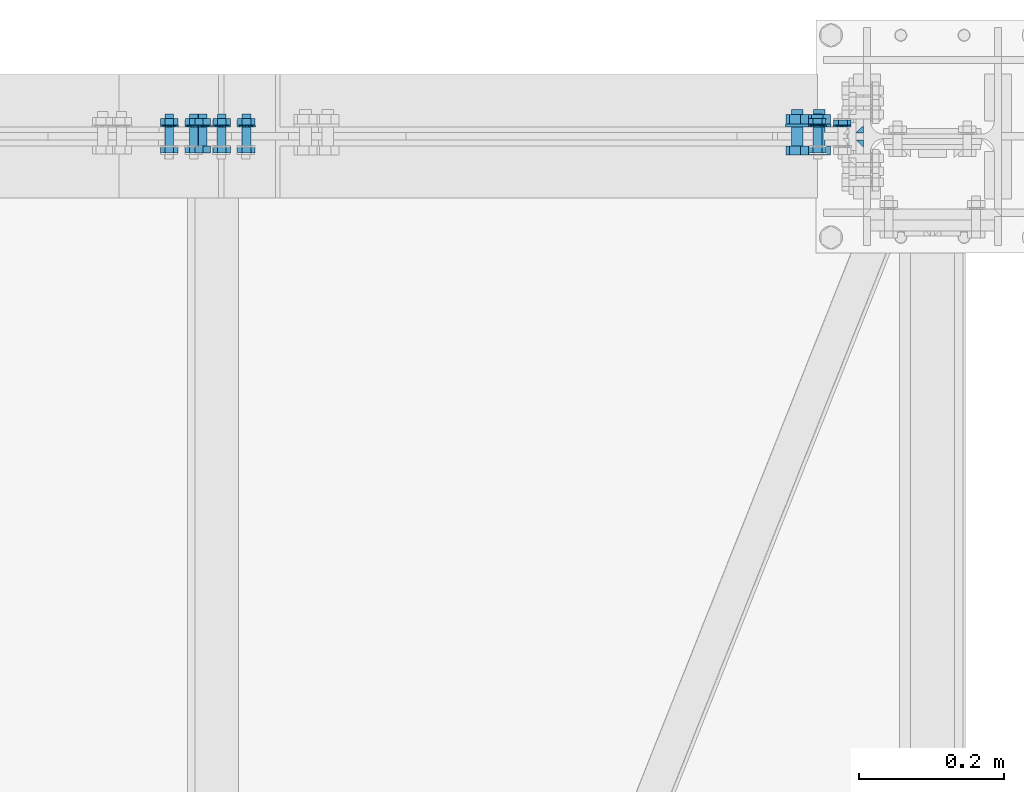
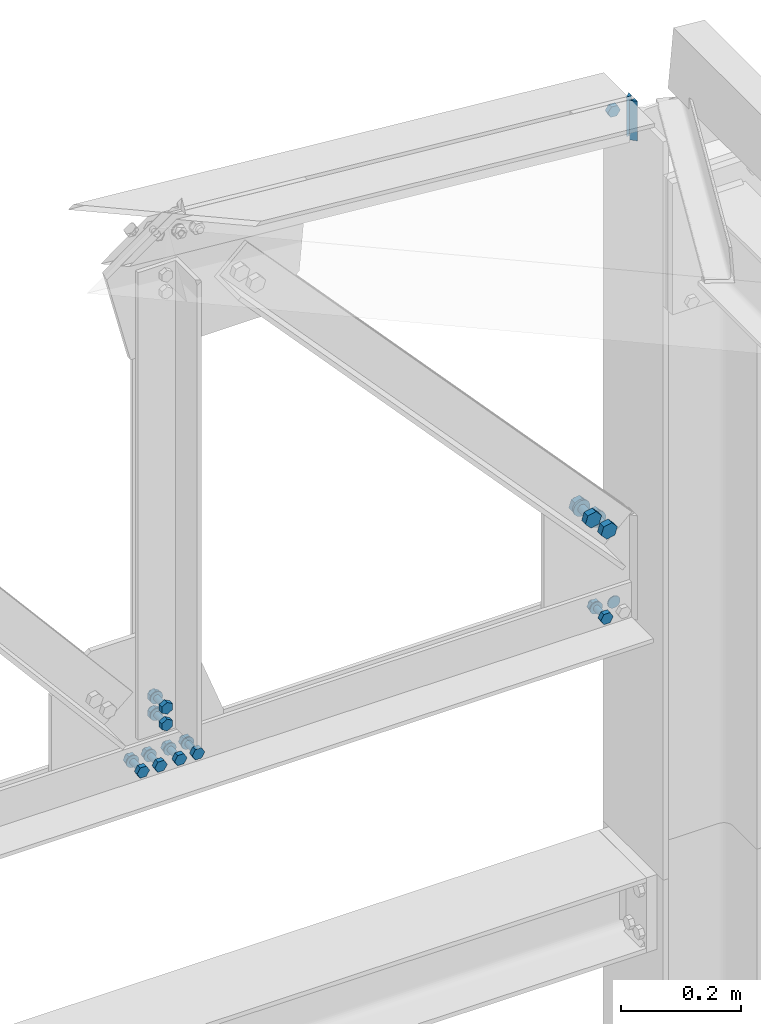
# One storey, part 224 of 251: 38 mechanical fasteners, 2 fasteners.
"""IFC4 building model written with IfcOpenShell, lengths in metres."""

from ifc_helpers import new_model, si_unit, frame, origin_with_axes, place, context, project, spatial, polyline, outline, extrude, type_object, element, save


model = new_model("IFC4")

# Units and contexts
model_context = context("Model", 3, precision=1e-05, world=origin_with_axes())
ifc_project = project(units=[si_unit("LENGTHUNIT", "METRE"), si_unit("AREAUNIT", "SQUARE_METRE"), si_unit("VOLUMEUNIT", "CUBIC_METRE"), si_unit("MASSUNIT", "GRAM", prefix="KILO"), si_unit("TIMEUNIT", "SECOND"), si_unit("PLANEANGLEUNIT", "RADIAN"), si_unit("SOLIDANGLEUNIT", "STERADIAN"), si_unit("THERMODYNAMICTEMPERATUREUNIT", "DEGREE_CELSIUS")], contexts=[model_context])

# Site, building, storey
placement_1 = place(None, origin_with_axes())
site = spatial("IfcSite", under=ifc_project, at=placement_1, Name="Italia", CompositionType="ELEMENT")
building = spatial("IfcBuilding", under=site, at=placement_1, Name="Deposito", CompositionType="ELEMENT")
storey = spatial("IfcBuildingStorey", under=building, at=placement_1, Name="Storey 0", CompositionType="ELEMENT", Elevation=0.0)

# Mechanical fasteners
mechanical_fastener_type_1 = type_object("IfcMechanicalFastenerType", Name="Reticolare 6", PredefinedType="BOLT")
placement_2 = place(placement_1, origin_with_axes())
mechanical_fastener_1_placement = place(placement_2, origin_with_axes())
element("IfcMechanicalFastener", 1, at=mechanical_fastener_1_placement, inside=storey, type_object=mechanical_fastener_type_1, Name="Reticolare 6", NominalDiameter=0.024, context=model_context, shape_type="SweptSolid", body=[
    extrude(outline(polyline([(0.0, 0.0), (-0.000408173, -0.00310564), (-0.00160599, -0.00600004), (-0.00351334, -0.00848532), (-0.00599861, -0.0103922), (-0.00889397, -0.011591), (-0.0119991, -0.0120001), (-0.0151043, -0.011591), (-0.0179996, -0.0103922), (-0.0204849, -0.00848532), (-0.0223923, -0.00600004), (-0.0235901, -0.00310564), (-0.0239983, 0.0), (-0.0235901, 0.00310564), (-0.0223923, 0.00600004), (-0.0204849, 0.00848532), (-0.0179996, 0.0103922), (-0.0151043, 0.011591), (-0.0119991, 0.0120001), (-0.00889397, 0.011591), (-0.00599861, 0.0103922), (-0.00351334, 0.00848532), (-0.00160599, 0.00600004), (-0.000408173, 0.00310564), (0.0, 0.0)])), frame((19.8879, 20.015, 5.007), z_axis=(0.0, -1.0, 0.0), x_axis=(1.0, 0.0, 0.0)), (0.0, 0.0, 1.0), 0.0019989),
])
mechanical_fastener_type_2 = type_object("IfcMechanicalFastenerType", Name="Reticolare 6", PredefinedType="BOLT")
mechanical_fastener_2_placement = place(placement_2, origin_with_axes())
element("IfcMechanicalFastener", 2, at=mechanical_fastener_2_placement, inside=storey, type_object=mechanical_fastener_type_2, Name="Reticolare 6", NominalDiameter=0.0119991, context=model_context, shape_type="SweptSolid", body=[
    extrude(outline(polyline([(0.0, 0.0), (-0.0119991, 0.0), (-0.0179996, 0.0103922), (-0.0119991, 0.0207844), (0.0, 0.0207844), (0.00600052, 0.0103922), (0.0, 0.0)])), frame((19.8479, 19.987, 4.99661), z_axis=(0.0, -1.0, 0.0), x_axis=(1.0, 0.0, 0.0)), (0.0, 0.0, 1.0), 0.00959969),
])
mechanical_fastener_type_3 = type_object("IfcMechanicalFastenerType", Name="Reticolare 6", PredefinedType="BOLT")
mechanical_fastener_3_placement = place(placement_2, origin_with_axes())
element("IfcMechanicalFastener", 3, at=mechanical_fastener_3_placement, inside=storey, type_object=mechanical_fastener_type_3, Name="Reticolare 6", NominalDiameter=0.012, context=model_context, shape_type="SweptSolid", body=[
    extrude(outline(polyline([(0.0, 0.0), (-0.000204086, -0.00155306), (-0.000804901, -0.00299978), (-0.00175858, -0.00424242), (-0.00300026, -0.00519609), (-0.00444794, -0.00579548), (-0.00600052, -0.00600004), (-0.0075531, -0.00579548), (-0.00900078, -0.00519609), (-0.0102425, -0.00424242), (-0.0111961, -0.00299978), (-0.011797, -0.00155306), (-0.012001, 0.0), (-0.011797, 0.00155306), (-0.0111961, 0.00299978), (-0.0102425, 0.00424242), (-0.00900078, 0.00519609), (-0.0075531, 0.00579548), (-0.00600052, 0.00600004), (-0.00444794, 0.00579548), (-0.00300026, 0.00519609), (-0.00175858, 0.00424242), (-0.000804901, 0.00299978), (-0.000204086, 0.00155306), (0.0, 0.0)])), frame((19.8479, 20.031, 5.007), z_axis=(0.0, -1.0, 0.0), x_axis=(1.0, 0.0, 0.0)), (0.0, 0.0, 1.0), 0.0440006),
])
mechanical_fastener_type_4 = type_object("IfcMechanicalFastenerType", Name="Reticolare 6", PredefinedType="BOLT")
mechanical_fastener_4_placement = place(placement_2, origin_with_axes())
element("IfcMechanicalFastener", 4, at=mechanical_fastener_4_placement, inside=storey, type_object=mechanical_fastener_type_4, Name="Reticolare 6", NominalDiameter=0.0119991, context=model_context, shape_type="SweptSolid", body=[
    extrude(outline(polyline([(0.0, 0.0), (-0.0119991, 0.0), (-0.0179996, 0.0103922), (-0.0119991, 0.0207844), (0.0, 0.0207844), (0.00600052, 0.0103922), (0.0, 0.0)])), frame((19.8479, 20.0246, 4.99661), z_axis=(0.0, -1.0, 0.0), x_axis=(1.0, 0.0, 0.0)), (0.0, 0.0, 1.0), 0.00959969),
])
mechanical_fastener_type_5 = type_object("IfcMechanicalFastenerType", Name="Reticolare 6", PredefinedType="BOLT")
mechanical_fastener_5_placement = place(placement_2, origin_with_axes())
element("IfcMechanicalFastener", 5, at=mechanical_fastener_5_placement, inside=storey, type_object=mechanical_fastener_type_5, Name="Reticolare 6", NominalDiameter=0.024, context=model_context, shape_type="SweptSolid", body=[
    extrude(outline(polyline([(0.0, 0.0), (-0.000408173, -0.00310564), (-0.00160599, -0.00600004), (-0.00351334, -0.00848532), (-0.00599861, -0.0103922), (-0.00889397, -0.011591), (-0.0119991, -0.0120001), (-0.0151043, -0.011591), (-0.0179996, -0.0103922), (-0.0204849, -0.00848532), (-0.0223923, -0.00600004), (-0.0235901, -0.00310564), (-0.0239983, 0.0), (-0.0235901, 0.00310564), (-0.0223923, 0.00600004), (-0.0204849, 0.00848532), (-0.0179996, 0.0103922), (-0.0151043, 0.011591), (-0.0119991, 0.0120001), (-0.00889397, 0.011591), (-0.00599861, 0.0103922), (-0.00351334, 0.00848532), (-0.00160599, 0.00600004), (-0.000408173, 0.00310564), (0.0, 0.0)])), frame((19.8539, 20.015, 5.007), z_axis=(0.0, -1.0, 0.0), x_axis=(1.0, 0.0, 0.0)), (0.0, 0.0, 1.0), 0.0019989),
])
mechanical_fastener_type_6 = type_object("IfcMechanicalFastenerType", Name="Reticolare 6", PredefinedType="BOLT")
mechanical_fastener_6_placement = place(placement_2, origin_with_axes())
element("IfcMechanicalFastener", 6, at=mechanical_fastener_6_placement, inside=storey, type_object=mechanical_fastener_type_6, Name="Reticolare 6", NominalDiameter=0.0159985, context=model_context, shape_type="SweptSolid", body=[
    extrude(outline(polyline([(0.0, 0.0), (-0.0108109, 0.0117965), (-0.00599861, 0.0270557), (0.00962257, 0.030519), (0.0204315, 0.0187225), (0.0156193, 0.00346279), (0.0, 0.0)])), frame((19.8397, 19.987, 5.17076), z_axis=(0.0, -1.0, 0.0), x_axis=(1.0, 0.0, 0.0)), (0.0, 0.0, 1.0), 0.0128002),
])
mechanical_fastener_type_7 = type_object("IfcMechanicalFastenerType", Name="Reticolare 6", PredefinedType="BOLT")
mechanical_fastener_7_placement = place(placement_2, origin_with_axes())
element("IfcMechanicalFastener", 7, at=mechanical_fastener_7_placement, inside=storey, type_object=mechanical_fastener_type_7, Name="Reticolare 6", NominalDiameter=0.016, context=model_context, shape_type="SweptSolid", body=[
    extrude(outline(polyline([(0.0, 0.0), (-0.000272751, -0.00207043), (-0.00107193, -0.00400019), (-0.00234222, -0.00565672), (-0.00399971, -0.00692797), (-0.00592804, -0.00772762), (-0.00799942, -0.0079999), (-0.0100708, -0.00772762), (-0.0119991, -0.00692797), (-0.0136566, -0.00565672), (-0.0149269, -0.00400019), (-0.0157261, -0.00207043), (-0.0159988, 0.0), (-0.0157261, 0.00207043), (-0.0149269, 0.00400019), (-0.0136566, 0.00565672), (-0.0119991, 0.00692797), (-0.0100708, 0.00772762), (-0.00799942, 0.0079999), (-0.00592804, 0.00772762), (-0.00399971, 0.00692797), (-0.00234222, 0.00565672), (-0.00107193, 0.00400019), (-0.000272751, 0.00207043), (0.0, 0.0)])), frame((19.8525, 20.037, 5.18602), z_axis=(0.0, -1.0, 0.0), x_axis=(1.0, 0.0, 0.0)), (0.0, 0.0, 1.0), 0.0500011),
])
mechanical_fastener_type_8 = type_object("IfcMechanicalFastenerType", Name="Reticolare 6", PredefinedType="BOLT")
mechanical_fastener_8_placement = place(placement_2, origin_with_axes())
element("IfcMechanicalFastener", 8, at=mechanical_fastener_8_placement, inside=storey, type_object=mechanical_fastener_type_8, Name="Reticolare 6", NominalDiameter=0.0159985, context=model_context, shape_type="SweptSolid", body=[
    extrude(outline(polyline([(0.0, 0.0), (-0.0108109, 0.0117965), (-0.00599861, 0.0270557), (0.00962257, 0.030519), (0.0204315, 0.0187225), (0.0156193, 0.00346279), (0.0, 0.0)])), frame((19.8397, 20.0298, 5.17076), z_axis=(0.0, -1.0, 0.0), x_axis=(1.0, 0.0, 0.0)), (0.0, 0.0, 1.0), 0.0128002),
])
mechanical_fastener_type_9 = type_object("IfcMechanicalFastenerType", Name="Reticolare 6", PredefinedType="BOLT")
mechanical_fastener_9_placement = place(placement_2, origin_with_axes())
element("IfcMechanicalFastener", 9, at=mechanical_fastener_9_placement, inside=storey, type_object=mechanical_fastener_type_9, Name="Reticolare 6", NominalDiameter=0.032, context=model_context, shape_type="SweptSolid", body=[
    extrude(outline(polyline([(0.0, 0.0), (-0.000545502, -0.00414133), (-0.00214386, -0.0079999), (-0.00468636, -0.0113139), (-0.00800133, -0.0138564), (-0.0118599, -0.0154548), (-0.0160007, -0.0159998), (-0.0201416, -0.0154548), (-0.0240002, -0.0138564), (-0.0273151, -0.0113139), (-0.0298576, -0.0079999), (-0.031456, -0.00414133), (-0.0320015, 0.0), (-0.031456, 0.00414133), (-0.0298576, 0.0079999), (-0.0273151, 0.0113139), (-0.0240002, 0.0138564), (-0.0201416, 0.0154548), (-0.0160007, 0.0159998), (-0.0118599, 0.0154548), (-0.00800133, 0.0138564), (-0.00468636, 0.0113139), (-0.00214386, 0.0079999), (-0.000545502, 0.00414133), (0.0, 0.0)])), frame((19.8605, 20.017, 5.18602), z_axis=(0.0, -1.0, 0.0), x_axis=(1.0, 0.0, 0.0)), (0.0, 0.0, 1.0), 0.00399971),
])
mechanical_fastener_type_10 = type_object("IfcMechanicalFastenerType", Name="Reticolare 6", PredefinedType="BOLT")
mechanical_fastener_10_placement = place(placement_2, origin_with_axes())
element("IfcMechanicalFastener", 10, at=mechanical_fastener_10_placement, inside=storey, type_object=mechanical_fastener_type_10, Name="Reticolare 6", NominalDiameter=0.0159985, context=model_context, shape_type="SweptSolid", body=[
    extrude(outline(polyline([(0.0, 0.0), (-0.0108089, 0.0117965), (-0.0059967, 0.0270562), (0.00962257, 0.030519), (0.0204334, 0.0187225), (0.0156212, 0.00346327), (0.0, 0.0)])), frame((19.8093, 19.987, 5.20394), z_axis=(0.0, -1.0, 0.0), x_axis=(1.0, 0.0, 0.0)), (0.0, 0.0, 1.0), 0.0128002),
])
mechanical_fastener_type_11 = type_object("IfcMechanicalFastenerType", Name="Reticolare 6", PredefinedType="BOLT")
mechanical_fastener_11_placement = place(placement_2, origin_with_axes())
element("IfcMechanicalFastener", 11, at=mechanical_fastener_11_placement, inside=storey, type_object=mechanical_fastener_type_11, Name="Reticolare 6", NominalDiameter=0.016, context=model_context, shape_type="SweptSolid", body=[
    extrude(outline(polyline([(0.0, 0.0), (-0.000272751, -0.00207043), (-0.00107193, -0.00400019), (-0.00234222, -0.00565672), (-0.00399971, -0.00692797), (-0.00592804, -0.00772762), (-0.00799942, -0.0079999), (-0.0100708, -0.00772762), (-0.0119991, -0.00692797), (-0.0136566, -0.00565672), (-0.0149269, -0.00400019), (-0.0157261, -0.00207043), (-0.0159988, 0.0), (-0.0157261, 0.00207043), (-0.0149269, 0.00400019), (-0.0136566, 0.00565672), (-0.0119991, 0.00692797), (-0.0100708, 0.00772762), (-0.00799942, 0.0079999), (-0.00592804, 0.00772762), (-0.00399971, 0.00692797), (-0.00234222, 0.00565672), (-0.00107193, 0.00400019), (-0.000272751, 0.00207043), (0.0, 0.0)])), frame((19.8221, 20.037, 5.2192), z_axis=(0.0, -1.0, 0.0), x_axis=(1.0, 0.0, 0.0)), (0.0, 0.0, 1.0), 0.0500011),
])
mechanical_fastener_type_12 = type_object("IfcMechanicalFastenerType", Name="Reticolare 6", PredefinedType="BOLT")
mechanical_fastener_12_placement = place(placement_2, origin_with_axes())
element("IfcMechanicalFastener", 12, at=mechanical_fastener_12_placement, inside=storey, type_object=mechanical_fastener_type_12, Name="Reticolare 6", NominalDiameter=0.0159985, context=model_context, shape_type="SweptSolid", body=[
    extrude(outline(polyline([(0.0, 0.0), (-0.0108089, 0.0117965), (-0.0059967, 0.0270562), (0.00962257, 0.030519), (0.0204334, 0.0187225), (0.0156212, 0.00346327), (0.0, 0.0)])), frame((19.8093, 20.0298, 5.20394), z_axis=(0.0, -1.0, 0.0), x_axis=(1.0, 0.0, 0.0)), (0.0, 0.0, 1.0), 0.0128002),
])
mechanical_fastener_type_13 = type_object("IfcMechanicalFastenerType", Name="Reticolare 6", PredefinedType="BOLT")
mechanical_fastener_13_placement = place(placement_2, origin_with_axes())
element("IfcMechanicalFastener", 13, at=mechanical_fastener_13_placement, inside=storey, type_object=mechanical_fastener_type_13, Name="Reticolare 6", NominalDiameter=0.032, context=model_context, shape_type="SweptSolid", body=[
    extrude(outline(polyline([(0.0, 0.0), (-0.000545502, -0.00414133), (-0.00214386, -0.0079999), (-0.00468636, -0.0113139), (-0.00800133, -0.0138564), (-0.0118599, -0.0154548), (-0.0160007, -0.0159998), (-0.0201416, -0.0154548), (-0.0240002, -0.0138564), (-0.0273151, -0.0113139), (-0.0298576, -0.0079999), (-0.031456, -0.00414133), (-0.0320015, 0.0), (-0.031456, 0.00414133), (-0.0298576, 0.0079999), (-0.0273151, 0.0113139), (-0.0240002, 0.0138564), (-0.0201416, 0.0154548), (-0.0160007, 0.0159998), (-0.0118599, 0.0154548), (-0.00800133, 0.0138564), (-0.00468636, 0.0113139), (-0.00214386, 0.0079999), (-0.000545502, 0.00414133), (0.0, 0.0)])), frame((19.8301, 20.017, 5.2192), z_axis=(0.0, -1.0, 0.0), x_axis=(1.0, 0.0, 0.0)), (0.0, 0.0, 1.0), 0.00399971),
])
mechanical_fastener_type_14 = type_object("IfcMechanicalFastenerType", Name="Reticolare 6", PredefinedType="BOLT")
mechanical_fastener_14_placement = place(placement_2, origin_with_axes())
element("IfcMechanicalFastener", 14, at=mechanical_fastener_14_placement, inside=storey, type_object=mechanical_fastener_type_14, Name="Reticolare 6", NominalDiameter=0.0119991, context=model_context, shape_type="SweptSolid", body=[
    extrude(outline(polyline([(0.0, 0.0), (-0.0119991, 0.0), (-0.0179996, 0.0103922), (-0.0119991, 0.0207844), (0.0, 0.0207844), (0.00600052, 0.0103922), (0.0, 0.0)])), frame((18.9908, 19.987, 4.99661), z_axis=(0.0, -1.0, 0.0), x_axis=(1.0, 0.0, 0.0)), (0.0, 0.0, 1.0), 0.00959969),
])
mechanical_fastener_type_15 = type_object("IfcMechanicalFastenerType", Name="Reticolare 6", PredefinedType="BOLT")
mechanical_fastener_15_placement = place(placement_2, origin_with_axes())
element("IfcMechanicalFastener", 15, at=mechanical_fastener_15_placement, inside=storey, type_object=mechanical_fastener_type_15, Name="Reticolare 6", NominalDiameter=0.012, context=model_context, shape_type="SweptSolid", body=[
    extrude(outline(polyline([(0.0, 0.0), (-0.000204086, -0.00155306), (-0.000804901, -0.00299978), (-0.00175858, -0.00424242), (-0.00300026, -0.00519609), (-0.00444794, -0.00579548), (-0.00600052, -0.00600004), (-0.0075531, -0.00579548), (-0.00900078, -0.00519609), (-0.0102425, -0.00424242), (-0.0111961, -0.00299978), (-0.011797, -0.00155306), (-0.012001, 0.0), (-0.011797, 0.00155306), (-0.0111961, 0.00299978), (-0.0102425, 0.00424242), (-0.00900078, 0.00519609), (-0.0075531, 0.00579548), (-0.00600052, 0.00600004), (-0.00444794, 0.00579548), (-0.00300026, 0.00519609), (-0.00175858, 0.00424242), (-0.000804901, 0.00299978), (-0.000204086, 0.00155306), (0.0, 0.0)])), frame((18.9908, 20.031, 5.007), z_axis=(0.0, -1.0, 0.0), x_axis=(1.0, 0.0, 0.0)), (0.0, 0.0, 1.0), 0.0440006),
])
mechanical_fastener_type_16 = type_object("IfcMechanicalFastenerType", Name="Reticolare 6", PredefinedType="BOLT")
mechanical_fastener_16_placement = place(placement_2, origin_with_axes())
element("IfcMechanicalFastener", 16, at=mechanical_fastener_16_placement, inside=storey, type_object=mechanical_fastener_type_16, Name="Reticolare 6", NominalDiameter=0.0119991, context=model_context, shape_type="SweptSolid", body=[
    extrude(outline(polyline([(0.0, 0.0), (-0.0119991, 0.0), (-0.0179996, 0.0103922), (-0.0119991, 0.0207844), (0.0, 0.0207844), (0.00600052, 0.0103922), (0.0, 0.0)])), frame((18.9908, 20.0246, 4.99661), z_axis=(0.0, -1.0, 0.0), x_axis=(1.0, 0.0, 0.0)), (0.0, 0.0, 1.0), 0.00959969),
])
mechanical_fastener_type_17 = type_object("IfcMechanicalFastenerType", Name="Reticolare 6", PredefinedType="BOLT")
mechanical_fastener_17_placement = place(placement_2, origin_with_axes())
element("IfcMechanicalFastener", 17, at=mechanical_fastener_17_placement, inside=storey, type_object=mechanical_fastener_type_17, Name="Reticolare 6", NominalDiameter=0.024, context=model_context, shape_type="SweptSolid", body=[
    extrude(outline(polyline([(0.0, 0.0), (-0.000408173, -0.00310564), (-0.00160599, -0.00600004), (-0.00351334, -0.00848532), (-0.00599861, -0.0103922), (-0.00889397, -0.011591), (-0.0119991, -0.0120001), (-0.0151043, -0.011591), (-0.0179996, -0.0103922), (-0.0204849, -0.00848532), (-0.0223923, -0.00600004), (-0.0235901, -0.00310564), (-0.0239983, 0.0), (-0.0235901, 0.00310564), (-0.0223923, 0.00600004), (-0.0204849, 0.00848532), (-0.0179996, 0.0103922), (-0.0151043, 0.011591), (-0.0119991, 0.0120001), (-0.00889397, 0.011591), (-0.00599861, 0.0103922), (-0.00351334, 0.00848532), (-0.00160599, 0.00600004), (-0.000408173, 0.00310564), (0.0, 0.0)])), frame((18.9968, 20.015, 5.007), z_axis=(0.0, -1.0, 0.0), x_axis=(1.0, 0.0, 0.0)), (0.0, 0.0, 1.0), 0.0019989),
])
mechanical_fastener_type_18 = type_object("IfcMechanicalFastenerType", Name="Reticolare 6", PredefinedType="BOLT")
mechanical_fastener_18_placement = place(placement_2, origin_with_axes())
element("IfcMechanicalFastener", 18, at=mechanical_fastener_18_placement, inside=storey, type_object=mechanical_fastener_type_18, Name="Reticolare 6", NominalDiameter=0.0119991, context=model_context, shape_type="SweptSolid", body=[
    extrude(outline(polyline([(0.0, 0.0), (-0.0119991, 0.0), (-0.0179996, 0.0103922), (-0.0119991, 0.0207844), (0.0, 0.0207844), (0.00600052, 0.0103922), (0.0, 0.0)])), frame((18.9568, 19.987, 4.99661), z_axis=(0.0, -1.0, 0.0), x_axis=(1.0, 0.0, 0.0)), (0.0, 0.0, 1.0), 0.00959969),
])
mechanical_fastener_type_19 = type_object("IfcMechanicalFastenerType", Name="Reticolare 6", PredefinedType="BOLT")
mechanical_fastener_19_placement = place(placement_2, origin_with_axes())
element("IfcMechanicalFastener", 19, at=mechanical_fastener_19_placement, inside=storey, type_object=mechanical_fastener_type_19, Name="Reticolare 6", NominalDiameter=0.012, context=model_context, shape_type="SweptSolid", body=[
    extrude(outline(polyline([(0.0, 0.0), (-0.000204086, -0.00155306), (-0.000804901, -0.00299978), (-0.00175858, -0.00424242), (-0.00300026, -0.00519609), (-0.00444794, -0.00579548), (-0.00600052, -0.00600004), (-0.0075531, -0.00579548), (-0.00900078, -0.00519609), (-0.0102425, -0.00424242), (-0.0111961, -0.00299978), (-0.011797, -0.00155306), (-0.012001, 0.0), (-0.011797, 0.00155306), (-0.0111961, 0.00299978), (-0.0102425, 0.00424242), (-0.00900078, 0.00519609), (-0.0075531, 0.00579548), (-0.00600052, 0.00600004), (-0.00444794, 0.00579548), (-0.00300026, 0.00519609), (-0.00175858, 0.00424242), (-0.000804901, 0.00299978), (-0.000204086, 0.00155306), (0.0, 0.0)])), frame((18.9568, 20.031, 5.007), z_axis=(0.0, -1.0, 0.0), x_axis=(1.0, 0.0, 0.0)), (0.0, 0.0, 1.0), 0.0440006),
])
mechanical_fastener_type_20 = type_object("IfcMechanicalFastenerType", Name="Reticolare 6", PredefinedType="BOLT")
mechanical_fastener_20_placement = place(placement_2, origin_with_axes())
element("IfcMechanicalFastener", 20, at=mechanical_fastener_20_placement, inside=storey, type_object=mechanical_fastener_type_20, Name="Reticolare 6", NominalDiameter=0.0119991, context=model_context, shape_type="SweptSolid", body=[
    extrude(outline(polyline([(0.0, 0.0), (-0.0119991, 0.0), (-0.0179996, 0.0103922), (-0.0119991, 0.0207844), (0.0, 0.0207844), (0.00600052, 0.0103922), (0.0, 0.0)])), frame((18.9568, 20.0246, 4.99661), z_axis=(0.0, -1.0, 0.0), x_axis=(1.0, 0.0, 0.0)), (0.0, 0.0, 1.0), 0.00959969),
])
mechanical_fastener_type_21 = type_object("IfcMechanicalFastenerType", Name="Reticolare 6", PredefinedType="BOLT")
mechanical_fastener_21_placement = place(placement_2, origin_with_axes())
element("IfcMechanicalFastener", 21, at=mechanical_fastener_21_placement, inside=storey, type_object=mechanical_fastener_type_21, Name="Reticolare 6", NominalDiameter=0.024, context=model_context, shape_type="SweptSolid", body=[
    extrude(outline(polyline([(0.0, 0.0), (-0.000408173, -0.00310564), (-0.00160599, -0.00600004), (-0.00351334, -0.00848532), (-0.00599861, -0.0103922), (-0.00889397, -0.011591), (-0.0119991, -0.0120001), (-0.0151043, -0.011591), (-0.0179996, -0.0103922), (-0.0204849, -0.00848532), (-0.0223923, -0.00600004), (-0.0235901, -0.00310564), (-0.0239983, 0.0), (-0.0235901, 0.00310564), (-0.0223923, 0.00600004), (-0.0204849, 0.00848532), (-0.0179996, 0.0103922), (-0.0151043, 0.011591), (-0.0119991, 0.0120001), (-0.00889397, 0.011591), (-0.00599861, 0.0103922), (-0.00351334, 0.00848532), (-0.00160599, 0.00600004), (-0.000408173, 0.00310564), (0.0, 0.0)])), frame((18.9628, 20.015, 5.007), z_axis=(0.0, -1.0, 0.0), x_axis=(1.0, 0.0, 0.0)), (0.0, 0.0, 1.0), 0.0019989),
])
mechanical_fastener_type_22 = type_object("IfcMechanicalFastenerType", Name="Reticolare 6", PredefinedType="BOLT")
mechanical_fastener_22_placement = place(placement_2, origin_with_axes())
element("IfcMechanicalFastener", 22, at=mechanical_fastener_22_placement, inside=storey, type_object=mechanical_fastener_type_22, Name="Reticolare 6", NominalDiameter=0.0119991, context=model_context, shape_type="SweptSolid", body=[
    extrude(outline(polyline([(0.0, 0.0), (-0.0119991, 0.0), (-0.0179996, 0.0103922), (-0.0119991, 0.0207844), (0.0, 0.0207844), (0.00600052, 0.0103922), (0.0, 0.0)])), frame((19.0288, 19.987, 4.99661), z_axis=(0.0, -1.0, 0.0), x_axis=(1.0, 0.0, 0.0)), (0.0, 0.0, 1.0), 0.00959969),
])
mechanical_fastener_type_23 = type_object("IfcMechanicalFastenerType", Name="Reticolare 6", PredefinedType="BOLT")
mechanical_fastener_23_placement = place(placement_2, origin_with_axes())
element("IfcMechanicalFastener", 23, at=mechanical_fastener_23_placement, inside=storey, type_object=mechanical_fastener_type_23, Name="Reticolare 6", NominalDiameter=0.012, context=model_context, shape_type="SweptSolid", body=[
    extrude(outline(polyline([(0.0, 0.0), (-0.000204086, -0.00155306), (-0.000804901, -0.00299978), (-0.00175858, -0.00424242), (-0.00300026, -0.00519609), (-0.00444794, -0.00579548), (-0.00600052, -0.00600004), (-0.0075531, -0.00579548), (-0.00900078, -0.00519609), (-0.0102425, -0.00424242), (-0.0111961, -0.00299978), (-0.011797, -0.00155306), (-0.012001, 0.0), (-0.011797, 0.00155306), (-0.0111961, 0.00299978), (-0.0102425, 0.00424242), (-0.00900078, 0.00519609), (-0.0075531, 0.00579548), (-0.00600052, 0.00600004), (-0.00444794, 0.00579548), (-0.00300026, 0.00519609), (-0.00175858, 0.00424242), (-0.000804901, 0.00299978), (-0.000204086, 0.00155306), (0.0, 0.0)])), frame((19.0288, 20.031, 5.007), z_axis=(0.0, -1.0, 0.0), x_axis=(1.0, 0.0, 0.0)), (0.0, 0.0, 1.0), 0.0440006),
])
mechanical_fastener_type_24 = type_object("IfcMechanicalFastenerType", Name="Reticolare 6", PredefinedType="BOLT")
mechanical_fastener_24_placement = place(placement_2, origin_with_axes())
element("IfcMechanicalFastener", 24, at=mechanical_fastener_24_placement, inside=storey, type_object=mechanical_fastener_type_24, Name="Reticolare 6", NominalDiameter=0.0119991, context=model_context, shape_type="SweptSolid", body=[
    extrude(outline(polyline([(0.0, 0.0), (-0.0119991, 0.0), (-0.0179996, 0.0103922), (-0.0119991, 0.0207844), (0.0, 0.0207844), (0.00600052, 0.0103922), (0.0, 0.0)])), frame((19.0288, 20.0246, 4.99661), z_axis=(0.0, -1.0, 0.0), x_axis=(1.0, 0.0, 0.0)), (0.0, 0.0, 1.0), 0.00959969),
])
mechanical_fastener_type_25 = type_object("IfcMechanicalFastenerType", Name="Reticolare 6", PredefinedType="BOLT")
mechanical_fastener_25_placement = place(placement_2, origin_with_axes())
element("IfcMechanicalFastener", 25, at=mechanical_fastener_25_placement, inside=storey, type_object=mechanical_fastener_type_25, Name="Reticolare 6", NominalDiameter=0.024, context=model_context, shape_type="SweptSolid", body=[
    extrude(outline(polyline([(0.0, 0.0), (-0.000408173, -0.00310564), (-0.00160599, -0.00600004), (-0.00351334, -0.00848532), (-0.00599861, -0.0103922), (-0.00889397, -0.011591), (-0.0119991, -0.0120001), (-0.0151043, -0.011591), (-0.0179996, -0.0103922), (-0.0204849, -0.00848532), (-0.0223923, -0.00600004), (-0.0235901, -0.00310564), (-0.0239983, 0.0), (-0.0235901, 0.00310564), (-0.0223923, 0.00600004), (-0.0204849, 0.00848532), (-0.0179996, 0.0103922), (-0.0151043, 0.011591), (-0.0119991, 0.0120001), (-0.00889397, 0.011591), (-0.00599861, 0.0103922), (-0.00351334, 0.00848532), (-0.00160599, 0.00600004), (-0.000408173, 0.00310564), (0.0, 0.0)])), frame((19.0348, 20.015, 5.007), z_axis=(0.0, -1.0, 0.0), x_axis=(1.0, 0.0, 0.0)), (0.0, 0.0, 1.0), 0.0019989),
])
mechanical_fastener_type_26 = type_object("IfcMechanicalFastenerType", Name="Reticolare 6", PredefinedType="BOLT")
mechanical_fastener_26_placement = place(placement_2, origin_with_axes())
element("IfcMechanicalFastener", 26, at=mechanical_fastener_26_placement, inside=storey, type_object=mechanical_fastener_type_26, Name="Reticolare 6", NominalDiameter=0.0119991, context=model_context, shape_type="SweptSolid", body=[
    extrude(outline(polyline([(0.0, 0.0), (-0.0119991, 0.0), (-0.0179996, 0.0103922), (-0.0119991, 0.0207844), (0.0, 0.0207844), (0.00600052, 0.0103922), (0.0, 0.0)])), frame((19.0628, 19.987, 4.99661), z_axis=(0.0, -1.0, 0.0), x_axis=(1.0, 0.0, 0.0)), (0.0, 0.0, 1.0), 0.00959969),
])
mechanical_fastener_type_27 = type_object("IfcMechanicalFastenerType", Name="Reticolare 6", PredefinedType="BOLT")
mechanical_fastener_27_placement = place(placement_2, origin_with_axes())
element("IfcMechanicalFastener", 27, at=mechanical_fastener_27_placement, inside=storey, type_object=mechanical_fastener_type_27, Name="Reticolare 6", NominalDiameter=0.012, context=model_context, shape_type="SweptSolid", body=[
    extrude(outline(polyline([(0.0, 0.0), (-0.000204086, -0.00155306), (-0.000804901, -0.00299978), (-0.00175858, -0.00424242), (-0.00300026, -0.00519609), (-0.00444794, -0.00579548), (-0.00600052, -0.00600004), (-0.0075531, -0.00579548), (-0.00900078, -0.00519609), (-0.0102425, -0.00424242), (-0.0111961, -0.00299978), (-0.011797, -0.00155306), (-0.012001, 0.0), (-0.011797, 0.00155306), (-0.0111961, 0.00299978), (-0.0102425, 0.00424242), (-0.00900078, 0.00519609), (-0.0075531, 0.00579548), (-0.00600052, 0.00600004), (-0.00444794, 0.00579548), (-0.00300026, 0.00519609), (-0.00175858, 0.00424242), (-0.000804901, 0.00299978), (-0.000204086, 0.00155306), (0.0, 0.0)])), frame((19.0628, 20.031, 5.007), z_axis=(0.0, -1.0, 0.0), x_axis=(1.0, 0.0, 0.0)), (0.0, 0.0, 1.0), 0.0440006),
])
mechanical_fastener_type_28 = type_object("IfcMechanicalFastenerType", Name="Reticolare 6", PredefinedType="BOLT")
mechanical_fastener_28_placement = place(placement_2, origin_with_axes())
element("IfcMechanicalFastener", 28, at=mechanical_fastener_28_placement, inside=storey, type_object=mechanical_fastener_type_28, Name="Reticolare 6", NominalDiameter=0.0119991, context=model_context, shape_type="SweptSolid", body=[
    extrude(outline(polyline([(0.0, 0.0), (-0.0119991, 0.0), (-0.0179996, 0.0103922), (-0.0119991, 0.0207844), (0.0, 0.0207844), (0.00600052, 0.0103922), (0.0, 0.0)])), frame((19.0628, 20.0246, 4.99661), z_axis=(0.0, -1.0, 0.0), x_axis=(1.0, 0.0, 0.0)), (0.0, 0.0, 1.0), 0.00959969),
])
mechanical_fastener_type_29 = type_object("IfcMechanicalFastenerType", Name="Reticolare 6", PredefinedType="BOLT")
mechanical_fastener_29_placement = place(placement_2, origin_with_axes())
element("IfcMechanicalFastener", 29, at=mechanical_fastener_29_placement, inside=storey, type_object=mechanical_fastener_type_29, Name="Reticolare 6", NominalDiameter=0.024, context=model_context, shape_type="SweptSolid", body=[
    extrude(outline(polyline([(0.0, 0.0), (-0.000408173, -0.00310564), (-0.00160599, -0.00600004), (-0.00351334, -0.00848532), (-0.00599861, -0.0103922), (-0.00889397, -0.011591), (-0.0119991, -0.0120001), (-0.0151043, -0.011591), (-0.0179996, -0.0103922), (-0.0204849, -0.00848532), (-0.0223923, -0.00600004), (-0.0235901, -0.00310564), (-0.0239983, 0.0), (-0.0235901, 0.00310564), (-0.0223923, 0.00600004), (-0.0204849, 0.00848532), (-0.0179996, 0.0103922), (-0.0151043, 0.011591), (-0.0119991, 0.0120001), (-0.00889397, 0.011591), (-0.00599861, 0.0103922), (-0.00351334, 0.00848532), (-0.00160599, 0.00600004), (-0.000408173, 0.00310564), (0.0, 0.0)])), frame((19.0688, 20.015, 5.007), z_axis=(0.0, -1.0, 0.0), x_axis=(1.0, 0.0, 0.0)), (0.0, 0.0, 1.0), 0.0019989),
])
mechanical_fastener_type_30 = type_object("IfcMechanicalFastenerType", Name="Reticolare 6", PredefinedType="BOLT")
mechanical_fastener_30_placement = place(placement_2, origin_with_axes())
element("IfcMechanicalFastener", 30, at=mechanical_fastener_30_placement, inside=storey, type_object=mechanical_fastener_type_30, Name="Reticolare 6", NominalDiameter=0.0120001, context=model_context, shape_type="SweptSolid", body=[
    extrude(outline(polyline([(0.0, 0.0), (0.0, -0.0120001), (-0.0103931, -0.0180001), (-0.0207863, -0.0120001), (-0.0207863, 0.0), (-0.0103931, 0.00600004), (0.0, 0.0)])), frame((19.0072, 19.987, 5.09253), z_axis=(0.0, -1.0, 0.0), x_axis=(1.0, 0.0, 0.0)), (0.0, 0.0, 1.0), 0.00959969),
])
mechanical_fastener_type_31 = type_object("IfcMechanicalFastenerType", Name="Reticolare 6", PredefinedType="BOLT")
mechanical_fastener_31_placement = place(placement_2, origin_with_axes())
element("IfcMechanicalFastener", 31, at=mechanical_fastener_31_placement, inside=storey, type_object=mechanical_fastener_type_31, Name="Reticolare 6", NominalDiameter=0.012, context=model_context, shape_type="SweptSolid", body=[
    extrude(outline(polyline([(0.0, 0.0), (-0.000204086, -0.00155306), (-0.000804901, -0.00299978), (-0.00175858, -0.00424242), (-0.00300026, -0.00519609), (-0.00444794, -0.00579548), (-0.00600052, -0.00600004), (-0.0075531, -0.00579548), (-0.00900078, -0.00519609), (-0.0102425, -0.00424242), (-0.0111961, -0.00299978), (-0.011797, -0.00155306), (-0.012001, 0.0), (-0.011797, 0.00155306), (-0.0111961, 0.00299978), (-0.0102425, 0.00424242), (-0.00900078, 0.00519609), (-0.0075531, 0.00579548), (-0.00600052, 0.00600004), (-0.00444794, 0.00579548), (-0.00300026, 0.00519609), (-0.00175858, 0.00424242), (-0.000804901, 0.00299978), (-0.000204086, 0.00155306), (0.0, 0.0)])), frame((19.0028, 20.031, 5.08653), z_axis=(0.0, -1.0, 0.0), x_axis=(1.0, 0.0, 0.0)), (0.0, 0.0, 1.0), 0.0440006),
])
mechanical_fastener_type_32 = type_object("IfcMechanicalFastenerType", Name="Reticolare 6", PredefinedType="BOLT")
mechanical_fastener_32_placement = place(placement_2, origin_with_axes())
element("IfcMechanicalFastener", 32, at=mechanical_fastener_32_placement, inside=storey, type_object=mechanical_fastener_type_32, Name="Reticolare 6", NominalDiameter=0.0120001, context=model_context, shape_type="SweptSolid", body=[
    extrude(outline(polyline([(0.0, 0.0), (0.0, -0.0120001), (-0.0103931, -0.0180001), (-0.0207863, -0.0120001), (-0.0207863, 0.0), (-0.0103931, 0.00600004), (0.0, 0.0)])), frame((19.0072, 20.0246, 5.09253), z_axis=(0.0, -1.0, 0.0), x_axis=(1.0, 0.0, 0.0)), (0.0, 0.0, 1.0), 0.00959969),
])
mechanical_fastener_type_33 = type_object("IfcMechanicalFastenerType", Name="Reticolare 6", PredefinedType="BOLT")
mechanical_fastener_33_placement = place(placement_2, origin_with_axes())
element("IfcMechanicalFastener", 33, at=mechanical_fastener_33_placement, inside=storey, type_object=mechanical_fastener_type_33, Name="Reticolare 6", NominalDiameter=0.024, context=model_context, shape_type="SweptSolid", body=[
    extrude(outline(polyline([(0.0, 0.0), (-0.000408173, -0.00310564), (-0.00160599, -0.00600004), (-0.00351334, -0.00848532), (-0.00599861, -0.0103922), (-0.00889397, -0.011591), (-0.0119991, -0.0120001), (-0.0151043, -0.011591), (-0.0179996, -0.0103922), (-0.0204849, -0.00848532), (-0.0223923, -0.00600004), (-0.0235901, -0.00310564), (-0.0239983, 0.0), (-0.0235901, 0.00310564), (-0.0223923, 0.00600004), (-0.0204849, 0.00848532), (-0.0179996, 0.0103922), (-0.0151043, 0.011591), (-0.0119991, 0.0120001), (-0.00889397, 0.011591), (-0.00599861, 0.0103922), (-0.00351334, 0.00848532), (-0.00160599, 0.00600004), (-0.000408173, 0.00310564), (0.0, 0.0)])), frame((19.0088, 20.015, 5.08653), z_axis=(0.0, -1.0, 0.0), x_axis=(1.0, 0.0, 0.0)), (0.0, 0.0, 1.0), 0.0019989),
])
mechanical_fastener_type_34 = type_object("IfcMechanicalFastenerType", Name="Reticolare 6", PredefinedType="BOLT")
mechanical_fastener_34_placement = place(placement_2, origin_with_axes())
element("IfcMechanicalFastener", 34, at=mechanical_fastener_34_placement, inside=storey, type_object=mechanical_fastener_type_34, Name="Reticolare 6", NominalDiameter=0.0120001, context=model_context, shape_type="SweptSolid", body=[
    extrude(outline(polyline([(0.0, 0.0), (0.0, -0.0120001), (-0.0103931, -0.0180001), (-0.0207863, -0.0120001), (-0.0207863, 0.0), (-0.0103931, 0.00600004), (0.0, 0.0)])), frame((19.0072, 19.987, 5.12653), z_axis=(0.0, -1.0, 0.0), x_axis=(1.0, 0.0, 0.0)), (0.0, 0.0, 1.0), 0.00959969),
])
mechanical_fastener_type_35 = type_object("IfcMechanicalFastenerType", Name="Reticolare 6", PredefinedType="BOLT")
mechanical_fastener_35_placement = place(placement_2, origin_with_axes())
element("IfcMechanicalFastener", 35, at=mechanical_fastener_35_placement, inside=storey, type_object=mechanical_fastener_type_35, Name="Reticolare 6", NominalDiameter=0.012, context=model_context, shape_type="SweptSolid", body=[
    extrude(outline(polyline([(0.0, 0.0), (-0.000204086, -0.00155306), (-0.000804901, -0.00299978), (-0.00175858, -0.00424242), (-0.00300026, -0.00519609), (-0.00444794, -0.00579548), (-0.00600052, -0.00600004), (-0.0075531, -0.00579548), (-0.00900078, -0.00519609), (-0.0102425, -0.00424242), (-0.0111961, -0.00299978), (-0.011797, -0.00155306), (-0.012001, 0.0), (-0.011797, 0.00155306), (-0.0111961, 0.00299978), (-0.0102425, 0.00424242), (-0.00900078, 0.00519609), (-0.0075531, 0.00579548), (-0.00600052, 0.00600004), (-0.00444794, 0.00579548), (-0.00300026, 0.00519609), (-0.00175858, 0.00424242), (-0.000804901, 0.00299978), (-0.000204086, 0.00155306), (0.0, 0.0)])), frame((19.0028, 20.031, 5.12053), z_axis=(0.0, -1.0, 0.0), x_axis=(1.0, 0.0, 0.0)), (0.0, 0.0, 1.0), 0.0440006),
])
mechanical_fastener_type_36 = type_object("IfcMechanicalFastenerType", Name="Reticolare 6", PredefinedType="BOLT")
mechanical_fastener_36_placement = place(placement_2, origin_with_axes())
element("IfcMechanicalFastener", 36, at=mechanical_fastener_36_placement, inside=storey, type_object=mechanical_fastener_type_36, Name="Reticolare 6", NominalDiameter=0.0120001, context=model_context, shape_type="SweptSolid", body=[
    extrude(outline(polyline([(0.0, 0.0), (0.0, -0.0120001), (-0.0103931, -0.0180001), (-0.0207863, -0.0120001), (-0.0207863, 0.0), (-0.0103931, 0.00600004), (0.0, 0.0)])), frame((19.0072, 20.0246, 5.12653), z_axis=(0.0, -1.0, 0.0), x_axis=(1.0, 0.0, 0.0)), (0.0, 0.0, 1.0), 0.00959969),
])
mechanical_fastener_type_37 = type_object("IfcMechanicalFastenerType", Name="Reticolare 6", PredefinedType="BOLT")
mechanical_fastener_37_placement = place(placement_2, origin_with_axes())
element("IfcMechanicalFastener", 37, at=mechanical_fastener_37_placement, inside=storey, type_object=mechanical_fastener_type_37, Name="Reticolare 6", NominalDiameter=0.024, context=model_context, shape_type="SweptSolid", body=[
    extrude(outline(polyline([(0.0, 0.0), (-0.000408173, -0.00310564), (-0.00160599, -0.00600004), (-0.00351334, -0.00848532), (-0.00599861, -0.0103922), (-0.00889397, -0.011591), (-0.0119991, -0.0120001), (-0.0151043, -0.011591), (-0.0179996, -0.0103922), (-0.0204849, -0.00848532), (-0.0223923, -0.00600004), (-0.0235901, -0.00310564), (-0.0239983, 0.0), (-0.0235901, 0.00310564), (-0.0223923, 0.00600004), (-0.0204849, 0.00848532), (-0.0179996, 0.0103922), (-0.0151043, 0.011591), (-0.0119991, 0.0120001), (-0.00889397, 0.011591), (-0.00599861, 0.0103922), (-0.00351334, 0.00848532), (-0.00160599, 0.00600004), (-0.000408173, 0.00310564), (0.0, 0.0)])), frame((19.0088, 20.015, 5.12053), z_axis=(0.0, -1.0, 0.0), x_axis=(1.0, 0.0, 0.0)), (0.0, 0.0, 1.0), 0.0019989),
])

# Fasteners
fastener_type_1 = type_object("IfcFastenerType", Name="Reticolare 6", PredefinedType="WELD")
fastener_1_placement = place(placement_2, origin_with_axes())
element("IfcFastener", 38, at=fastener_1_placement, inside=storey, type_object=fastener_type_1, Name="Reticolare 6", context=model_context, shape_type="SweptSolid", body=[
    extrude(outline(polyline([(0.0, 0.0), (-0.00986862, -0.0101738), (-0.00986862, 0.0), (0.0, 0.0)])), frame((19.9051, 20.0148, 6.03096), z_axis=(0.0, 0.0, -1.0), x_axis=(0.0, 1.0, 0.0)), (0.0, 0.0, 1.0), 0.0804057),
])
fastener_type_2 = type_object("IfcFastenerType", Name="Reticolare 6", PredefinedType="WELD")
fastener_2_placement = place(placement_2, origin_with_axes())
element("IfcFastener", 39, at=fastener_2_placement, inside=storey, type_object=fastener_type_2, Name="Reticolare 6", context=model_context, shape_type="SweptSolid", body=[
    extrude(outline(polyline([(0.0, 0.0), (0.00986862, 0.0101738), (0.00986862, 0.0), (0.0, 0.0)])), frame((19.9051, 19.9852, 5.95056), z_axis=(0.0, 0.0, 1.0), x_axis=(0.0, 1.0, 0.0)), (0.0, 0.0, 1.0), 0.0804057),
])

# Mechanical fastener
mechanical_fastener_type_38 = type_object("IfcMechanicalFastenerType", Name="Reticolare 6", PredefinedType="BOLT")
mechanical_fastener_38_placement = place(placement_2, origin_with_axes())
element("IfcMechanicalFastener", 40, at=mechanical_fastener_38_placement, inside=storey, type_object=mechanical_fastener_type_38, Name="Reticolare 6", NominalDiameter=0.011999, context=model_context, shape_type="SweptSolid", body=[
    extrude(outline(polyline([(0.0, 0.0), (0.0119534, 0.00104618), (0.018837, -0.00878382), (0.0137653, -0.0196595), (0.00181198, -0.0207052), (-0.00507164, -0.0108757), (0.0, 0.0)])), frame((19.8831, 20.013, 6.01363), z_axis=(0.0, 1.0, 0.0), x_axis=(-1.0, 0.0, 0.0)), (0.0, 0.0, 1.0), 0.00959969),
])

save(model, "model.ifc")
